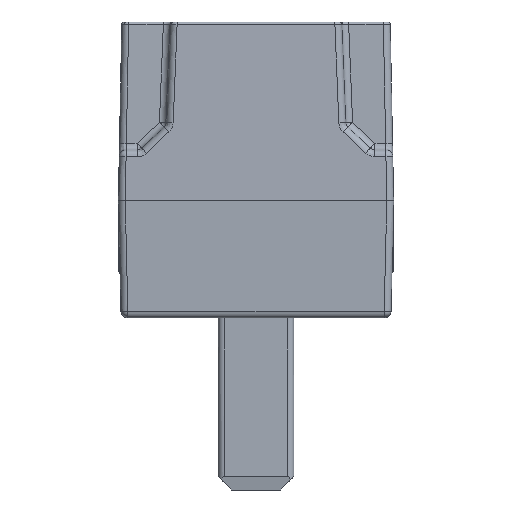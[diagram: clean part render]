
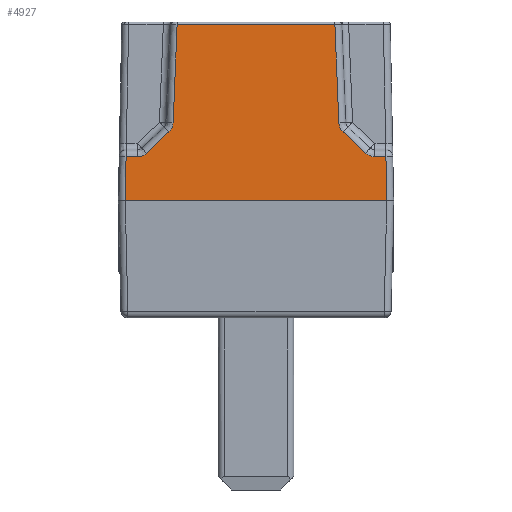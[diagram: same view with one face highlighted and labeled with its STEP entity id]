
A CAD part, left-side view. The second image highlights one B-rep face of the part: STEP entity #4927.
In plain terms, the highlighted planar face has unit normal (-1, 0, 0.019).
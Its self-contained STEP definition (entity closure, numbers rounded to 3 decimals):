
#565=FACE_OUTER_BOUND('',#869,.T.);
#869=EDGE_LOOP('',(#3899,#3900,#3901,#3902,#3903,#3904,#3905,#3906,#3907,
#3908,#3909,#3910,#3911,#3912));
#1209=LINE('',#7609,#1651);
#1325=LINE('',#8012,#1767);
#1326=LINE('',#8014,#1768);
#1327=LINE('',#8016,#1769);
#1328=LINE('',#8020,#1770);
#1329=LINE('',#8024,#1771);
#1330=LINE('',#8025,#1772);
#1331=LINE('',#8027,#1773);
#1332=LINE('',#8029,#1774);
#1333=LINE('',#8033,#1775);
#1651=VECTOR('',#6038,1000.);
#1767=VECTOR('',#6374,1000.);
#1768=VECTOR('',#6375,1000.);
#1769=VECTOR('',#6376,1000.);
#1770=VECTOR('',#6379,1000.);
#1771=VECTOR('',#6382,1000.);
#1772=VECTOR('',#6383,1000.);
#1773=VECTOR('',#6384,1000.);
#1774=VECTOR('',#6385,1000.);
#1775=VECTOR('',#6388,1000.);
#1983=ELLIPSE('',#5333,0.926,0.846);
#1984=ELLIPSE('',#5334,0.925,0.844);
#1985=ELLIPSE('',#5335,0.925,0.844);
#1986=ELLIPSE('',#5336,0.926,0.846);
#2183=VERTEX_POINT('',#7605);
#2184=VERTEX_POINT('',#7607);
#2279=VERTEX_POINT('',#8010);
#2280=VERTEX_POINT('',#8011);
#2281=VERTEX_POINT('',#8013);
#2282=VERTEX_POINT('',#8015);
#2283=VERTEX_POINT('',#8017);
#2284=VERTEX_POINT('',#8019);
#2285=VERTEX_POINT('',#8021);
#2286=VERTEX_POINT('',#8023);
#2287=VERTEX_POINT('',#8026);
#2288=VERTEX_POINT('',#8028);
#2289=VERTEX_POINT('',#8030);
#2290=VERTEX_POINT('',#8032);
#2685=EDGE_CURVE('',#2183,#2184,#1209,.T.);
#2843=EDGE_CURVE('',#2279,#2280,#1325,.T.);
#2844=EDGE_CURVE('',#2280,#2281,#1326,.T.);
#2845=EDGE_CURVE('',#2281,#2282,#1327,.T.);
#2846=EDGE_CURVE('',#2283,#2282,#1983,.T.);
#2847=EDGE_CURVE('',#2283,#2284,#1328,.T.);
#2848=EDGE_CURVE('',#2285,#2284,#1984,.T.);
#2849=EDGE_CURVE('',#2285,#2286,#1329,.T.);
#2850=EDGE_CURVE('',#2286,#2183,#1330,.T.);
#2851=EDGE_CURVE('',#2184,#2287,#1331,.T.);
#2852=EDGE_CURVE('',#2287,#2288,#1332,.T.);
#2853=EDGE_CURVE('',#2289,#2288,#1985,.T.);
#2854=EDGE_CURVE('',#2289,#2290,#1333,.T.);
#2855=EDGE_CURVE('',#2279,#2290,#1986,.T.);
#3899=ORIENTED_EDGE('',*,*,#2843,.T.);
#3900=ORIENTED_EDGE('',*,*,#2844,.T.);
#3901=ORIENTED_EDGE('',*,*,#2845,.T.);
#3902=ORIENTED_EDGE('',*,*,#2846,.F.);
#3903=ORIENTED_EDGE('',*,*,#2847,.T.);
#3904=ORIENTED_EDGE('',*,*,#2848,.F.);
#3905=ORIENTED_EDGE('',*,*,#2849,.T.);
#3906=ORIENTED_EDGE('',*,*,#2850,.T.);
#3907=ORIENTED_EDGE('',*,*,#2685,.T.);
#3908=ORIENTED_EDGE('',*,*,#2851,.T.);
#3909=ORIENTED_EDGE('',*,*,#2852,.T.);
#3910=ORIENTED_EDGE('',*,*,#2853,.F.);
#3911=ORIENTED_EDGE('',*,*,#2854,.T.);
#3912=ORIENTED_EDGE('',*,*,#2855,.F.);
#4761=PLANE('',#5332);
#4927=ADVANCED_FACE('',(#565),#4761,.T.);
#5332=AXIS2_PLACEMENT_3D('',#8009,#6372,#6373);
#5333=AXIS2_PLACEMENT_3D('',#8018,#6377,#6378);
#5334=AXIS2_PLACEMENT_3D('',#8022,#6380,#6381);
#5335=AXIS2_PLACEMENT_3D('',#8031,#6386,#6387);
#5336=AXIS2_PLACEMENT_3D('',#8034,#6389,#6390);
#6038=DIRECTION('',(0.,-1.,0.));
#6372=DIRECTION('center_axis',(-1.,0.,
0.019));
#6373=DIRECTION('ref_axis',(-0.019,0.,-1.));
#6374=DIRECTION('',(0.019,0.04,0.999));
#6375=DIRECTION('',(0.,1.,0.));
#6376=DIRECTION('',(-0.019,0.04,-0.999));
#6377=DIRECTION('center_axis',(-1.,0.,
0.019));
#6378=DIRECTION('ref_axis',(0.018,-0.414,0.91));
#6379=DIRECTION('',(-0.013,0.728,-0.685));
#6380=DIRECTION('center_axis',(-1.,0.,
0.019));
#6381=DIRECTION('ref_axis',(0.007,-0.929,0.369));
#6382=DIRECTION('',(0.,1.,0.));
#6383=DIRECTION('',(-0.019,0.019,-1.));
#6384=DIRECTION('',(0.019,0.019,1.));
#6385=DIRECTION('',(0.,1.,0.));
#6386=DIRECTION('center_axis',(-1.,0.,
0.019));
#6387=DIRECTION('ref_axis',(-0.007,-0.929,-0.369));
#6388=DIRECTION('',(0.013,0.728,0.685));
#6389=DIRECTION('center_axis',(-1.,0.,0.019));
#6390=DIRECTION('ref_axis',(0.018,0.414,0.91));
#7605=CARTESIAN_POINT('',(-7.25,9.5,0.));
#7607=CARTESIAN_POINT('',(-7.25,-9.5,0.));
#7609=CARTESIAN_POINT('',(-7.25,10.,0.));
#8009=CARTESIAN_POINT('Origin',(-7.25,10.,0.));
#8010=CARTESIAN_POINT('',(-7.14,-6.017,5.694));
#8011=CARTESIAN_POINT('',(-7.003,-5.732,12.804));
#8012=CARTESIAN_POINT('',(-7.237,-6.22,0.65));
#8013=CARTESIAN_POINT('',(-7.003,5.732,12.804));
#8014=CARTESIAN_POINT('',(-7.003,5.724,12.804));
#8015=CARTESIAN_POINT('',(-7.14,6.017,5.694));
#8016=CARTESIAN_POINT('',(-7.144,6.026,5.48));
#8017=CARTESIAN_POINT('',(-7.154,6.331,5.006));
#8018=CARTESIAN_POINT('Origin',(-7.141,6.877,5.67));
#8019=CARTESIAN_POINT('',(-7.183,7.95,3.482));
#8020=CARTESIAN_POINT('',(-7.186,8.099,3.341));
#8021=CARTESIAN_POINT('',(-7.188,8.635,3.21));
#8022=CARTESIAN_POINT('Origin',(-7.172,8.578,4.065));
#8023=CARTESIAN_POINT('',(-7.188,9.438,3.21));
#8024=CARTESIAN_POINT('',(-7.188,9.929,3.21));
#8025=CARTESIAN_POINT('',(-7.25,9.5,-0.01));
#8026=CARTESIAN_POINT('',(-7.188,-9.438,3.21));
#8027=CARTESIAN_POINT('',(-7.243,-9.493,0.375));
#8028=CARTESIAN_POINT('',(-7.188,-8.635,3.21));
#8029=CARTESIAN_POINT('',(-7.188,10.,3.21));
#8030=CARTESIAN_POINT('',(-7.183,-7.95,3.482));
#8031=CARTESIAN_POINT('Origin',(-7.172,-8.578,4.065));
#8032=CARTESIAN_POINT('',(-7.154,-6.331,5.006));
#8033=CARTESIAN_POINT('',(-7.042,-0.175,10.802));
#8034=CARTESIAN_POINT('Origin',(-7.141,-6.877,5.67));
